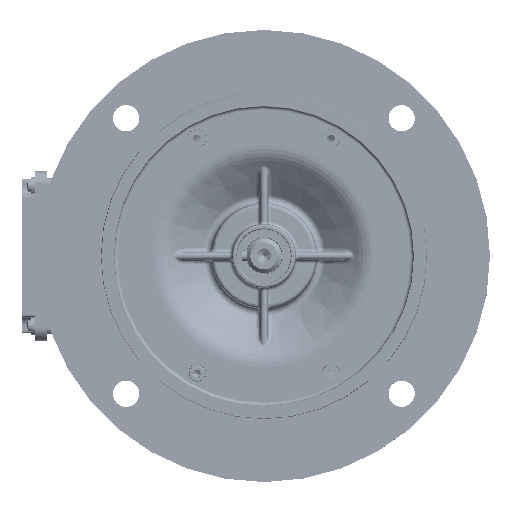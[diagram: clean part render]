
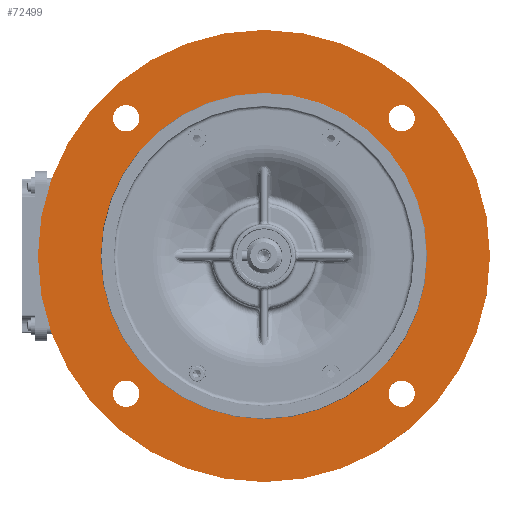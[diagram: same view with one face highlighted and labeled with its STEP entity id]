
A CAD part, top view. The second image highlights one B-rep face of the part: STEP entity #72499.
In plain terms, the highlighted planar face has unit normal (0, 0, 1).
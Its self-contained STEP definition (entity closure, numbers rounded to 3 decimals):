
#62646=PLANE('',#227267);
#72499=ADVANCED_FACE('',(#78234,#78235,#78236,#78237,#78238,#78239),#62646,
 .T.);
#78234=FACE_BOUND('',#88623,.T.);
#78235=FACE_BOUND('',#88624,.T.);
#78236=FACE_BOUND('',#88625,.T.);
#78237=FACE_BOUND('',#88626,.T.);
#78238=FACE_BOUND('',#88627,.T.);
#78239=FACE_BOUND('',#88628,.T.);
#88623=EDGE_LOOP('',(#132053));
#88624=EDGE_LOOP('',(#132054));
#88625=EDGE_LOOP('',(#132055));
#88626=EDGE_LOOP('',(#132056));
#88627=EDGE_LOOP('',(#132057));
#88628=EDGE_LOOP('',(#132058));
#132053=ORIENTED_EDGE('',*,*,#176450,.T.);
#132054=ORIENTED_EDGE('',*,*,#176451,.T.);
#132055=ORIENTED_EDGE('',*,*,#176452,.T.);
#132056=ORIENTED_EDGE('',*,*,#176453,.T.);
#132057=ORIENTED_EDGE('',*,*,#176449,.T.);
#132058=ORIENTED_EDGE('',*,*,#175320,.T.);
#152132=VERTEX_POINT('',#418398);
#152782=VERTEX_POINT('',#431234);
#152783=VERTEX_POINT('',#431237);
#152784=VERTEX_POINT('',#431239);
#152785=VERTEX_POINT('',#431241);
#152786=VERTEX_POINT('',#431243);
#175320=EDGE_CURVE('',#152132,#152132,#188730,.T.);
#176449=EDGE_CURVE('',#152782,#152782,#189154,.T.);
#176450=EDGE_CURVE('',#152783,#152783,#189155,.T.);
#176451=EDGE_CURVE('',#152784,#152784,#189156,.T.);
#176452=EDGE_CURVE('',#152785,#152785,#189157,.T.);
#176453=EDGE_CURVE('',#152786,#152786,#189158,.T.);
#188730=CIRCLE('',#226556,90.);
#189154=CIRCLE('',#227261,124.75);
#189155=CIRCLE('',#227263,7.25);
#189156=CIRCLE('',#227264,7.25);
#189157=CIRCLE('',#227265,7.25);
#189158=CIRCLE('',#227266,7.25);
#226556=AXIS2_PLACEMENT_3D('',#418397,#264621,#264622);
#227261=AXIS2_PLACEMENT_3D('',#431233,#266211,#266212);
#227263=AXIS2_PLACEMENT_3D('',#431236,#266215,#266216);
#227264=AXIS2_PLACEMENT_3D('',#431238,#266217,#266218);
#227265=AXIS2_PLACEMENT_3D('',#431240,#266219,#266220);
#227266=AXIS2_PLACEMENT_3D('',#431242,#266221,#266222);
#227267=AXIS2_PLACEMENT_3D('',#431244,#266223,#266224);
#264621=DIRECTION('',(0.,0.,-1.));
#264622=DIRECTION('',(1.,0.,0.));
#266211=DIRECTION('',(0.,0.,1.));
#266212=DIRECTION('',(1.,0.,0.));
#266215=DIRECTION('',(0.,0.,-1.));
#266216=DIRECTION('',(-1.,0.,0.));
#266217=DIRECTION('',(0.,0.,-1.));
#266218=DIRECTION('',(-1.,0.,0.));
#266219=DIRECTION('',(0.,0.,-1.));
#266220=DIRECTION('',(-1.,0.,0.));
#266221=DIRECTION('',(0.,0.,-1.));
#266222=DIRECTION('',(-1.,0.,0.));
#266223=DIRECTION('',(0.,0.,1.));
#266224=DIRECTION('',(1.,0.,0.));
#418397=CARTESIAN_POINT('',(0.,0.,69.5));
#418398=CARTESIAN_POINT('',(90.,0.,69.5));
#431233=CARTESIAN_POINT('',(0.,0.,69.5));
#431234=CARTESIAN_POINT('',(124.75,0.,69.5));
#431236=CARTESIAN_POINT('',(76.014,-76.014,69.5));
#431237=CARTESIAN_POINT('',(68.764,-76.014,69.5));
#431238=CARTESIAN_POINT('',(-76.014,-76.014,69.5));
#431239=CARTESIAN_POINT('',(-83.264,-76.014,69.5));
#431240=CARTESIAN_POINT('',(-76.014,76.014,69.5));
#431241=CARTESIAN_POINT('',(-83.264,76.014,69.5));
#431242=CARTESIAN_POINT('',(76.014,76.014,69.5));
#431243=CARTESIAN_POINT('',(68.764,76.014,69.5));
#431244=CARTESIAN_POINT('',(0.,0.,69.5));
